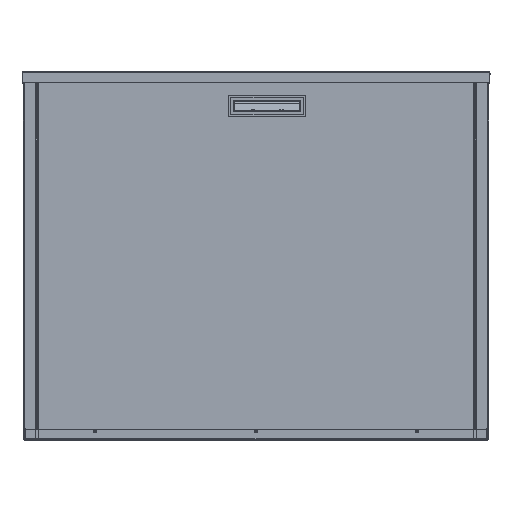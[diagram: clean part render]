
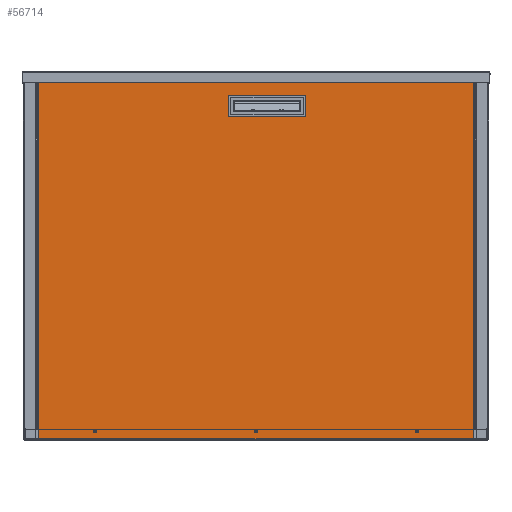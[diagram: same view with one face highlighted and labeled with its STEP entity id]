
A CAD part, top view. The second image highlights one B-rep face of the part: STEP entity #56714.
In plain terms, the highlighted planar face has unit normal (0, 0, -1).
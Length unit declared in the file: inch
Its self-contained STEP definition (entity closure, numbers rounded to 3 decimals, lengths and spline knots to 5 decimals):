
#190 = ORIENTED_EDGE ( 'NONE', *, *, #49207, .T. ) ;
#821 = CARTESIAN_POINT ( 'NONE',  ( -0.332, 1.07, 0.038 ) ) ;
#1524 = CARTESIAN_POINT ( 'NONE',  ( -25.9242, 28.06487, 0.038 ) ) ;
#1708 = DIRECTION ( 'NONE',  ( 1., 0., 0. ) ) ;
#1821 = LINE ( 'NONE', #32037, #76129 ) ;
#3207 = VECTOR ( 'NONE', #40495, 39.37008 ) ;
#3658 = CARTESIAN_POINT ( 'NONE',  ( -26.0182, 28.06487, 0.038 ) ) ;
#3756 = VERTEX_POINT ( 'NONE', #5281 ) ;
#4419 = CIRCLE ( 'NONE', #29305, 0.094 ) ;
#4792 = FACE_BOUND ( 'NONE', #29864, .T. ) ;
#4943 = EDGE_CURVE ( 'NONE', #19375, #37480, #53982, .T. ) ;
#5252 = CIRCLE ( 'NONE', #18869, 0.094 ) ;
#5281 = CARTESIAN_POINT ( 'NONE',  ( -25.8302, 16.59087, 0.038 ) ) ;
#5422 = CARTESIAN_POINT ( 'NONE',  ( -0.332, 13.19363, 0.038 ) ) ;
#5484 = VECTOR ( 'NONE', #30170, 39.37008 ) ;
#5736 = DIRECTION ( 'NONE',  ( 0., 1., 0. ) ) ;
#5749 = CARTESIAN_POINT ( 'NONE',  ( -2.12887, 1.07, 0.038 ) ) ;
#6005 = VECTOR ( 'NONE', #74313, 39.37008 ) ;
#6626 = FACE_BOUND ( 'NONE', #44652, .T. ) ;
#6679 = DIRECTION ( 'NONE',  ( -1., 0., 0. ) ) ;
#6847 = AXIS2_PLACEMENT_3D ( 'NONE', #1524, #42743, #7416 ) ;
#7416 = DIRECTION ( 'NONE',  ( 1., 0., 0. ) ) ;
#8382 = LINE ( 'NONE', #45583, #72784 ) ;
#8400 = AXIS2_PLACEMENT_3D ( 'NONE', #821, #42008, #6679 ) ;
#9466 = CIRCLE ( 'NONE', #37980, 0.094 ) ;
#9477 = VERTEX_POINT ( 'NONE', #33995 ) ;
#9482 = CIRCLE ( 'NONE', #6847, 0.094 ) ;
#11427 = LINE ( 'NONE', #5422, #3207 ) ;
#11772 = EDGE_CURVE ( 'NONE', #18277, #29349, #33983, .T. ) ;
#11928 = CARTESIAN_POINT ( 'NONE',  ( -0.332, 1.11687, 0.038 ) ) ;
#12005 = DIRECTION ( 'NONE',  ( 0., 0., 1. ) ) ;
#12327 = PLANE ( 'NONE',  #8400 ) ;
#13006 = EDGE_CURVE ( 'NONE', #28857, #61101, #34943, .T. ) ;
#13169 = CARTESIAN_POINT ( 'NONE',  ( -26.0182, 5.11687, 0.038 ) ) ;
#14030 = EDGE_CURVE ( 'NONE', #3756, #69708, #4419, .T. ) ;
#14195 = CARTESIAN_POINT ( 'NONE',  ( -2.12887, 13.19363, 0.038 ) ) ;
#14344 = CARTESIAN_POINT ( 'NONE',  ( -26.0182, 16.59087, 0.038 ) ) ;
#14493 = LINE ( 'NONE', #37122, #45832 ) ;
#15304 = ORIENTED_EDGE ( 'NONE', *, *, #47959, .T. ) ;
#16880 = ORIENTED_EDGE ( 'NONE', *, *, #25427, .T. ) ;
#18277 = VERTEX_POINT ( 'NONE', #41577 ) ;
#18869 = AXIS2_PLACEMENT_3D ( 'NONE', #72144, #36993, #1708 ) ;
#19375 = VERTEX_POINT ( 'NONE', #3658 ) ;
#19672 = ORIENTED_EDGE ( 'NONE', *, *, #47279, .T. ) ;
#19895 = CARTESIAN_POINT ( 'NONE',  ( -25.66925, 32.06487, 0.038 ) ) ;
#20340 = FACE_BOUND ( 'NONE', #63489, .T. ) ;
#20518 = EDGE_CURVE ( 'NONE', #43760, #53089, #8382, .T. ) ;
#20840 = EDGE_CURVE ( 'NONE', #69708, #3756, #29481, .T. ) ;
#22309 = EDGE_CURVE ( 'NONE', #41727, #9477, #32484, .T. ) ;
#25427 = EDGE_CURVE ( 'NONE', #27397, #41727, #70276, .T. ) ;
#26821 = EDGE_CURVE ( 'NONE', #29349, #43760, #52643, .T. ) ;
#27397 = VERTEX_POINT ( 'NONE', #14195 ) ;
#28575 = DIRECTION ( 'NONE',  ( 1., 0., 0. ) ) ;
#28646 = DIRECTION ( 'NONE',  ( 0., 0., 1. ) ) ;
#28659 = CARTESIAN_POINT ( 'NONE',  ( -25.9242, 16.59087, 0.038 ) ) ;
#28857 = VERTEX_POINT ( 'NONE', #51796 ) ;
#29223 = EDGE_CURVE ( 'NONE', #9477, #46990, #14493, .T. ) ;
#29305 = AXIS2_PLACEMENT_3D ( 'NONE', #38890, #38863, #38795 ) ;
#29349 = VERTEX_POINT ( 'NONE', #33226 ) ;
#29481 = CIRCLE ( 'NONE', #73676, 0.094 ) ;
#29864 = EDGE_LOOP ( 'NONE', ( #42500, #68867 ) ) ;
#30028 = CARTESIAN_POINT ( 'NONE',  ( -0.332, 1.11687, 0.038 ) ) ;
#30170 = DIRECTION ( 'NONE',  ( -1., 0., 0. ) ) ;
#30482 = VECTOR ( 'NONE', #45704, 39.37008 ) ;
#32037 = CARTESIAN_POINT ( 'NONE',  ( -0.332, 32.06487, 0.038 ) ) ;
#32484 = LINE ( 'NONE', #45306, #30482 ) ;
#32526 = VERTEX_POINT ( 'NONE', #50151 ) ;
#33224 = VECTOR ( 'NONE', #53315, 39.37008 ) ;
#33226 = CARTESIAN_POINT ( 'NONE',  ( -26.4505, 1.11687, 0.038 ) ) ;
#33691 = CARTESIAN_POINT ( 'NONE',  ( -3.35887, 13.19363, 0.038 ) ) ;
#33983 = LINE ( 'NONE', #30028, #5484 ) ;
#33995 = CARTESIAN_POINT ( 'NONE',  ( -3.35887, 18.39363, 0.038 ) ) ;
#34943 = LINE ( 'NONE', #74408, #6005 ) ;
#36152 = VECTOR ( 'NONE', #43410, 39.37008 ) ;
#36861 = DIRECTION ( 'NONE',  ( 0., -1., 0. ) ) ;
#36993 = DIRECTION ( 'NONE',  ( 0., 0., 1. ) ) ;
#37122 = CARTESIAN_POINT ( 'NONE',  ( -3.35887, 1.07, 0.038 ) ) ;
#37480 = VERTEX_POINT ( 'NONE', #54348 ) ;
#37980 = AXIS2_PLACEMENT_3D ( 'NONE', #47261, #12005, #53148 ) ;
#38521 = CARTESIAN_POINT ( 'NONE',  ( -0.37888, 1.11687, 0.038 ) ) ;
#38755 = CARTESIAN_POINT ( 'NONE',  ( -2.12887, 18.39363, 0.038 ) ) ;
#38795 = DIRECTION ( 'NONE',  ( 1., 0., 0. ) ) ;
#38863 = DIRECTION ( 'NONE',  ( 0., 0., 1. ) ) ;
#38890 = CARTESIAN_POINT ( 'NONE',  ( -25.9242, 16.59087, 0.038 ) ) ;
#40495 = DIRECTION ( 'NONE',  ( 1., 0., 0. ) ) ;
#41577 = CARTESIAN_POINT ( 'NONE',  ( -25.66925, 1.11687, 0.038 ) ) ;
#41708 = ORIENTED_EDGE ( 'NONE', *, *, #48972, .T. ) ;
#41727 = VERTEX_POINT ( 'NONE', #38755 ) ;
#42008 = DIRECTION ( 'NONE',  ( 0., 0., -1. ) ) ;
#42500 = ORIENTED_EDGE ( 'NONE', *, *, #14030, .T. ) ;
#42743 = DIRECTION ( 'NONE',  ( 0., 0., 1. ) ) ;
#43145 = CARTESIAN_POINT ( 'NONE',  ( -26.4505, 1.07, 0.038 ) ) ;
#43410 = DIRECTION ( 'NONE',  ( 0., 1., 0. ) ) ;
#43760 = VERTEX_POINT ( 'NONE', #64779 ) ;
#43765 = EDGE_CURVE ( 'NONE', #44238, #32526, #9466, .T. ) ;
#44238 = VERTEX_POINT ( 'NONE', #13169 ) ;
#44652 = EDGE_LOOP ( 'NONE', ( #73083, #48659 ) ) ;
#45306 = CARTESIAN_POINT ( 'NONE',  ( -0.332, 18.39363, 0.038 ) ) ;
#45583 = CARTESIAN_POINT ( 'NONE',  ( -0.332, 32.06487, 0.038 ) ) ;
#45704 = DIRECTION ( 'NONE',  ( -1., 0., 0. ) ) ;
#45807 = DIRECTION ( 'NONE',  ( 1., 0., 0. ) ) ;
#45832 = VECTOR ( 'NONE', #36861, 39.37008 ) ;
#46990 = VERTEX_POINT ( 'NONE', #33691 ) ;
#47261 = CARTESIAN_POINT ( 'NONE',  ( -25.9242, 5.11687, 0.038 ) ) ;
#47279 = EDGE_CURVE ( 'NONE', #32526, #44238, #5252, .T. ) ;
#47959 = EDGE_CURVE ( 'NONE', #46990, #27397, #11427, .T. ) ;
#48659 = ORIENTED_EDGE ( 'NONE', *, *, #4943, .T. ) ;
#48972 = EDGE_CURVE ( 'NONE', #61101, #18277, #64465, .T. ) ;
#49207 = EDGE_CURVE ( 'NONE', #53089, #28857, #1821, .T. ) ;
#50151 = CARTESIAN_POINT ( 'NONE',  ( -25.8302, 5.11687, 0.038 ) ) ;
#51681 = FACE_OUTER_BOUND ( 'NONE', #55824, .T. ) ;
#51796 = CARTESIAN_POINT ( 'NONE',  ( -0.37888, 32.06487, 0.038 ) ) ;
#52409 = DIRECTION ( 'NONE',  ( 1., 0., 0. ) ) ;
#52495 = DIRECTION ( 'NONE',  ( 0., 0., 1. ) ) ;
#52506 = CARTESIAN_POINT ( 'NONE',  ( -25.9242, 28.06487, 0.038 ) ) ;
#52643 = LINE ( 'NONE', #43145, #36152 ) ;
#53089 = VERTEX_POINT ( 'NONE', #19895 ) ;
#53148 = DIRECTION ( 'NONE',  ( 1., 0., 0. ) ) ;
#53315 = DIRECTION ( 'NONE',  ( -1., 0., 0. ) ) ;
#53704 = EDGE_LOOP ( 'NONE', ( #19672, #65101 ) ) ;
#53982 = CIRCLE ( 'NONE', #70822, 0.094 ) ;
#54348 = CARTESIAN_POINT ( 'NONE',  ( -25.8302, 28.06487, 0.038 ) ) ;
#55582 = ORIENTED_EDGE ( 'NONE', *, *, #22309, .T. ) ;
#55824 = EDGE_LOOP ( 'NONE', ( #71198, #190, #71393, #41708, #68545, #72151 ) ) ;
#55881 = DIRECTION ( 'NONE',  ( 1., 0., 0. ) ) ;
#56714 = ADVANCED_FACE ( 'NONE', ( #51681, #20340, #6626, #4792, #65544 ), #12327, .T. ) ;
#61101 = VERTEX_POINT ( 'NONE', #38521 ) ;
#63489 = EDGE_LOOP ( 'NONE', ( #16880, #55582, #69757, #15304 ) ) ;
#63805 = VECTOR ( 'NONE', #5736, 39.37008 ) ;
#64465 = LINE ( 'NONE', #11928, #33224 ) ;
#64779 = CARTESIAN_POINT ( 'NONE',  ( -26.4505, 32.06487, 0.038 ) ) ;
#65101 = ORIENTED_EDGE ( 'NONE', *, *, #43765, .T. ) ;
#65544 = FACE_BOUND ( 'NONE', #53704, .T. ) ;
#68545 = ORIENTED_EDGE ( 'NONE', *, *, #11772, .T. ) ;
#68867 = ORIENTED_EDGE ( 'NONE', *, *, #20840, .T. ) ;
#69708 = VERTEX_POINT ( 'NONE', #14344 ) ;
#69757 = ORIENTED_EDGE ( 'NONE', *, *, #29223, .T. ) ;
#70276 = LINE ( 'NONE', #5749, #63805 ) ;
#70822 = AXIS2_PLACEMENT_3D ( 'NONE', #52506, #52495, #52409 ) ;
#71198 = ORIENTED_EDGE ( 'NONE', *, *, #20518, .T. ) ;
#71393 = ORIENTED_EDGE ( 'NONE', *, *, #13006, .T. ) ;
#72144 = CARTESIAN_POINT ( 'NONE',  ( -25.9242, 5.11687, 0.038 ) ) ;
#72151 = ORIENTED_EDGE ( 'NONE', *, *, #26821, .T. ) ;
#72784 = VECTOR ( 'NONE', #45807, 39.37008 ) ;
#73083 = ORIENTED_EDGE ( 'NONE', *, *, #75865, .T. ) ;
#73676 = AXIS2_PLACEMENT_3D ( 'NONE', #28659, #28646, #28575 ) ;
#74313 = DIRECTION ( 'NONE',  ( 0., -1., 0. ) ) ;
#74408 = CARTESIAN_POINT ( 'NONE',  ( -0.37888, 1.07, 0.038 ) ) ;
#75865 = EDGE_CURVE ( 'NONE', #37480, #19375, #9482, .T. ) ;
#76129 = VECTOR ( 'NONE', #55881, 39.37008 ) ;
